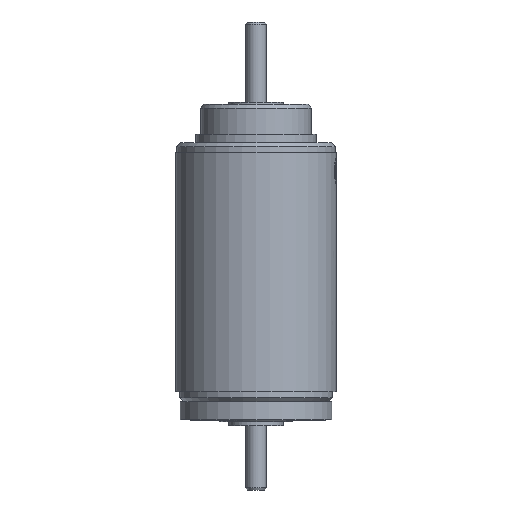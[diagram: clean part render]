
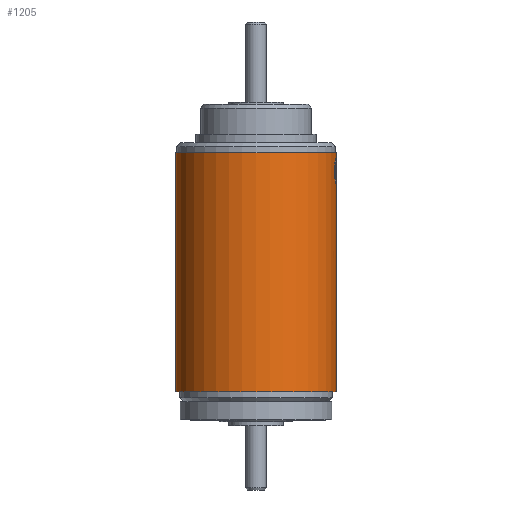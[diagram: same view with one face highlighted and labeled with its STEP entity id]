
A CAD part, left-side view. The second image highlights one B-rep face of the part: STEP entity #1205.
In plain terms, the highlighted cylindrical face has radius 4 mm (diameter 8 mm), a full revolution.
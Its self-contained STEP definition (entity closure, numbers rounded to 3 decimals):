
#798=CIRCLE('',#3975,4.);
#799=CIRCLE('',#3976,4.);
#1124=CYLINDRICAL_SURFACE('',#3977,4.);
#1205=ADVANCED_FACE('',(#1452,#1453,#1454,#1455),#1124,.T.);
#1452=FACE_BOUND('',#1603,.T.);
#1453=FACE_BOUND('',#1604,.T.);
#1454=FACE_BOUND('',#1605,.T.);
#1455=FACE_BOUND('',#1606,.T.);
#1603=EDGE_LOOP('',(#1922));
#1604=EDGE_LOOP('',(#1923));
#1605=EDGE_LOOP('',(#1924));
#1606=EDGE_LOOP('',(#1925));
#1922=ORIENTED_EDGE('',*,*,#3277,.F.);
#1923=ORIENTED_EDGE('',*,*,#3275,.F.);
#1924=ORIENTED_EDGE('',*,*,#3281,.F.);
#1925=ORIENTED_EDGE('',*,*,#3282,.T.);
#2917=VERTEX_POINT('',#5501);
#2919=VERTEX_POINT('',#5679);
#2923=VERTEX_POINT('',#6059);
#2924=VERTEX_POINT('',#6061);
#3275=EDGE_CURVE('',#2917,#2917,#3778,.T.);
#3277=EDGE_CURVE('',#2919,#2919,#3780,.T.);
#3281=EDGE_CURVE('',#2923,#2923,#798,.T.);
#3282=EDGE_CURVE('',#2924,#2924,#799,.T.);
#3778=B_SPLINE_CURVE_WITH_KNOTS('',3,(#5473,#5474,#5475,#5476,#5477,#5478,
#5479,#5480,#5481,#5482,#5483,#5484,#5485,#5486,#5487,#5488,#5489,#5490,
#5491,#5492,#5493,#5494,#5495,#5496,#5497,#5498,#5499,#5500),
 .UNSPECIFIED.,.T.,.F.,(1,3,2,2,2,2,2,2,2,2,2,2,2,2,3,1),(-0.063,0.,0.063,
0.125,0.25,0.313,0.344,0.375,0.5,0.625,0.75,0.813,0.875,0.938,1.,1.063),
 .UNSPECIFIED.);
#3780=B_SPLINE_CURVE_WITH_KNOTS('',3,(#5651,#5652,#5653,#5654,#5655,#5656,
#5657,#5658,#5659,#5660,#5661,#5662,#5663,#5664,#5665,#5666,#5667,#5668,
#5669,#5670,#5671,#5672,#5673,#5674,#5675,#5676,#5677,#5678),
 .UNSPECIFIED.,.T.,.F.,(1,3,2,2,2,2,2,2,2,2,2,2,2,2,3,1),(-0.063,0.,0.063,
0.125,0.25,0.313,0.344,0.375,0.5,0.625,0.75,0.813,0.875,0.938,1.,1.063),
 .UNSPECIFIED.);
#3975=AXIS2_PLACEMENT_3D('',#6058,#4338,#4339);
#3976=AXIS2_PLACEMENT_3D('',#6060,#4340,#4341);
#3977=AXIS2_PLACEMENT_3D('',#6062,#4342,#4343);
#4338=DIRECTION('',(0.,0.,-1.));
#4339=DIRECTION('',(-1.,0.,0.));
#4340=DIRECTION('',(0.,0.,-1.));
#4341=DIRECTION('',(-1.,0.,0.));
#4342=DIRECTION('',(0.,0.,-1.));
#4343=DIRECTION('',(-1.,0.,0.));
#5473=CARTESIAN_POINT('',(-0.194,-3.995,-0.92));
#5474=CARTESIAN_POINT('',(-0.231,-3.994,-0.875));
#5475=CARTESIAN_POINT('',(-0.281,-3.991,-0.835));
#5476=CARTESIAN_POINT('',(-0.406,-3.98,-0.792));
#5477=CARTESIAN_POINT('',(-0.479,-3.972,-0.789));
#5478=CARTESIAN_POINT('',(-0.669,-3.946,-0.826));
#5479=CARTESIAN_POINT('',(-0.758,-3.928,-0.911));
#5480=CARTESIAN_POINT('',(-0.829,-3.913,-1.138));
#5481=CARTESIAN_POINT('',(-0.843,-3.91,-1.231));
#5482=CARTESIAN_POINT('',(-0.849,-3.909,-1.394));
#5483=CARTESIAN_POINT('',(-0.848,-3.909,-1.453));
#5484=CARTESIAN_POINT('',(-0.843,-3.91,-1.559));
#5485=CARTESIAN_POINT('',(-0.838,-3.911,-1.607));
#5486=CARTESIAN_POINT('',(-0.803,-3.919,-1.822));
#5487=CARTESIAN_POINT('',(-0.741,-3.932,-1.92));
#5488=CARTESIAN_POINT('',(-0.555,-3.962,-2.026));
#5489=CARTESIAN_POINT('',(-0.432,-3.978,-2.034));
#5490=CARTESIAN_POINT('',(-0.241,-3.994,-1.967));
#5491=CARTESIAN_POINT('',(-0.171,-3.997,-1.891));
#5492=CARTESIAN_POINT('',(-0.107,-3.999,-1.715));
#5493=CARTESIAN_POINT('',(-0.093,-3.999,-1.646));
#5494=CARTESIAN_POINT('',(-0.077,-3.999,-1.48));
#5495=CARTESIAN_POINT('',(-0.075,-3.999,-1.383));
#5496=CARTESIAN_POINT('',(-0.087,-3.999,-1.211));
#5497=CARTESIAN_POINT('',(-0.1,-3.999,-1.137));
#5498=CARTESIAN_POINT('',(-0.135,-3.998,-1.013));
#5499=CARTESIAN_POINT('',(-0.157,-3.997,-0.964));
#5500=CARTESIAN_POINT('',(-0.194,-3.995,-0.92));
#5501=CARTESIAN_POINT('',(-0.194,-3.995,-0.92));
#5651=CARTESIAN_POINT('',(0.734,-3.932,-0.92));
#5652=CARTESIAN_POINT('',(0.698,-3.939,-0.875));
#5653=CARTESIAN_POINT('',(0.648,-3.948,-0.835));
#5654=CARTESIAN_POINT('',(0.525,-3.966,-0.792));
#5655=CARTESIAN_POINT('',(0.452,-3.975,-0.789));
#5656=CARTESIAN_POINT('',(0.26,-3.994,-0.826));
#5657=CARTESIAN_POINT('',(0.17,-3.997,-0.911));
#5658=CARTESIAN_POINT('',(0.097,-3.999,-1.138));
#5659=CARTESIAN_POINT('',(0.083,-3.999,-1.231));
#5660=CARTESIAN_POINT('',(0.077,-3.999,-1.394));
#5661=CARTESIAN_POINT('',(0.078,-3.999,-1.453));
#5662=CARTESIAN_POINT('',(0.083,-3.999,-1.559));
#5663=CARTESIAN_POINT('',(0.088,-3.999,-1.607));
#5664=CARTESIAN_POINT('',(0.124,-3.998,-1.822));
#5665=CARTESIAN_POINT('',(0.188,-3.997,-1.92));
#5666=CARTESIAN_POINT('',(0.375,-3.983,-2.026));
#5667=CARTESIAN_POINT('',(0.498,-3.97,-2.034));
#5668=CARTESIAN_POINT('',(0.689,-3.941,-1.967));
#5669=CARTESIAN_POINT('',(0.757,-3.928,-1.891));
#5670=CARTESIAN_POINT('',(0.819,-3.915,-1.715));
#5671=CARTESIAN_POINT('',(0.834,-3.912,-1.646));
#5672=CARTESIAN_POINT('',(0.849,-3.909,-1.48));
#5673=CARTESIAN_POINT('',(0.851,-3.909,-1.383));
#5674=CARTESIAN_POINT('',(0.839,-3.911,-1.211));
#5675=CARTESIAN_POINT('',(0.827,-3.914,-1.137));
#5676=CARTESIAN_POINT('',(0.792,-3.921,-1.013));
#5677=CARTESIAN_POINT('',(0.77,-3.925,-0.964));
#5678=CARTESIAN_POINT('',(0.734,-3.932,-0.92));
#5679=CARTESIAN_POINT('',(0.734,-3.932,-0.92));
#6058=CARTESIAN_POINT('',(0.,0.,-12.4));
#6059=CARTESIAN_POINT('',(-4.,0.,-12.4));
#6060=CARTESIAN_POINT('',(0.,0.,-0.5));
#6061=CARTESIAN_POINT('',(-4.,0.,-0.5));
#6062=CARTESIAN_POINT('',(0.,0.,0.));
